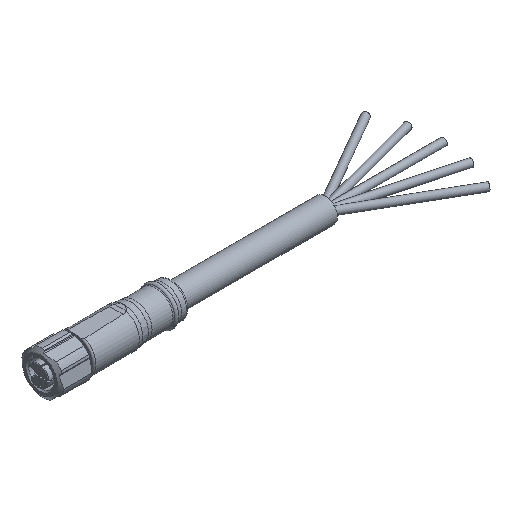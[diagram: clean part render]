
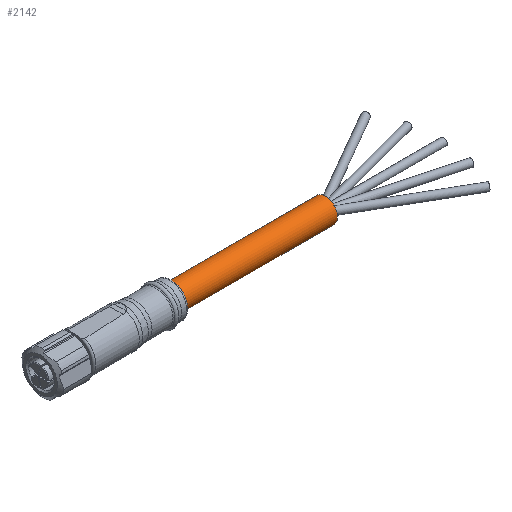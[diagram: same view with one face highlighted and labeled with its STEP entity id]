
A CAD part, isometric view. The second image highlights one B-rep face of the part: STEP entity #2142.
In plain terms, the highlighted cylindrical face has radius 5.05 mm (diameter 10.1 mm), a full revolution.
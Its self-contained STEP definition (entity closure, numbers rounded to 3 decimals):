
#56=CYLINDRICAL_SURFACE('',#2303,5.05);
#195=CIRCLE('',#2302,5.05);
#196=CIRCLE('',#2304,5.05);
#413=ORIENTED_EDGE('',*,*,#801,.F.);
#414=ORIENTED_EDGE('',*,*,#800,.T.);
#800=EDGE_CURVE('',#989,#989,#195,.T.);
#801=EDGE_CURVE('',#990,#990,#196,.T.);
#989=VERTEX_POINT('',#3351);
#990=VERTEX_POINT('',#3354);
#1222=EDGE_LOOP('',(#413));
#1223=EDGE_LOOP('',(#414));
#1342=FACE_BOUND('',#1222,.T.);
#1343=FACE_BOUND('',#1223,.T.);
#2142=ADVANCED_FACE('',(#1342,#1343),#56,.T.);
#2302=AXIS2_PLACEMENT_3D('',#3350,#2606,#2607);
#2303=AXIS2_PLACEMENT_3D('',#3352,#2608,#2609);
#2304=AXIS2_PLACEMENT_3D('',#3353,#2610,#2611);
#2606=DIRECTION('',(1.,0.,0.));
#2607=DIRECTION('',(0.,1.,0.));
#2608=DIRECTION('',(1.,0.,0.));
#2609=DIRECTION('',(0.,1.,0.));
#2610=DIRECTION('',(1.,0.,0.));
#2611=DIRECTION('',(0.,1.,0.));
#3350=CARTESIAN_POINT('',(56.64,0.,0.));
#3351=CARTESIAN_POINT('',(56.64,5.05,0.));
#3352=CARTESIAN_POINT('',(121.6,0.,0.));
#3353=CARTESIAN_POINT('',(121.6,0.,0.));
#3354=CARTESIAN_POINT('',(121.6,5.05,0.));
